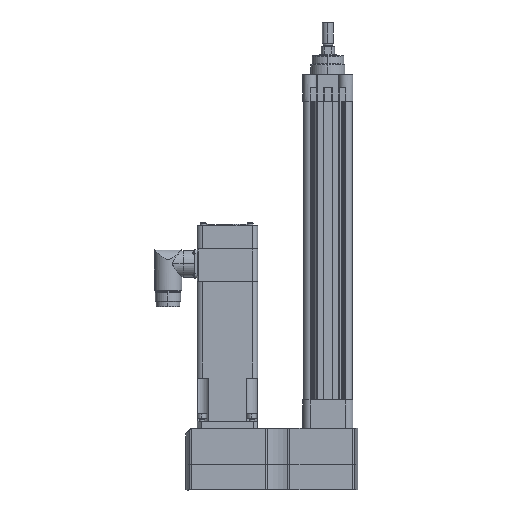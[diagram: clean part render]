
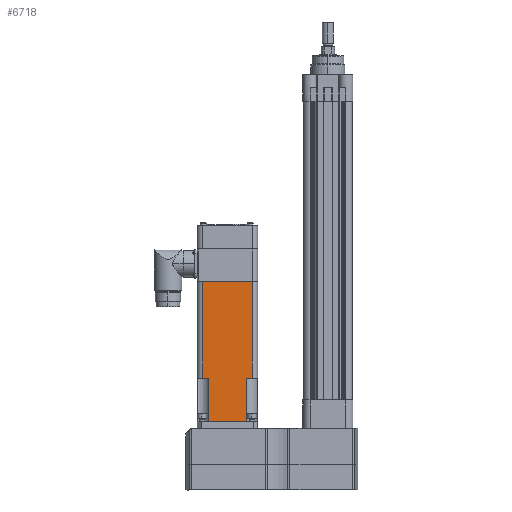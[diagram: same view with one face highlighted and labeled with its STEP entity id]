
A CAD part, left-side view. The second image highlights one B-rep face of the part: STEP entity #6718.
In plain terms, the highlighted planar face has unit normal (-1, 0, 0) as drawn and (0, 0, -1) by its records, which use the part's own axes.
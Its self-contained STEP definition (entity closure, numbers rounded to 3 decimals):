
#3277 = ORIENTED_EDGE ( 'NONE', *, *, #6850, .T. ) ;
#3278 = ORIENTED_EDGE ( 'NONE', *, *, #6851, .F. ) ;
#3279 = ORIENTED_EDGE ( 'NONE', *, *, #6849, .T. ) ;
#3650 = VERTEX_POINT ( 'NONE', #15145 ) ;
#3651 = VERTEX_POINT ( 'NONE', #15146 ) ;
#3664 = VERTEX_POINT ( 'NONE', #11144 ) ;
#3665 = VERTEX_POINT ( 'NONE', #11145 ) ;
#3666 = VERTEX_POINT ( 'NONE', #11146 ) ;
#3667 = VERTEX_POINT ( 'NONE', #11147 ) ;
#3668 = VERTEX_POINT ( 'NONE', #11148 ) ;
#3669 = VERTEX_POINT ( 'NONE', #11149 ) ;
#6718 = ADVANCED_FACE ( 'NONE', ( #34443 ), #35438, .F. ) ;
#6832 = EDGE_CURVE ( 'NONE', #3651, #3650, #34579, .T. ) ;
#6849 = EDGE_CURVE ( 'NONE', #3665, #3666, #34594, .T. ) ;
#6850 = EDGE_CURVE ( 'NONE', #3664, #3665, #34595, .T. ) ;
#6851 = EDGE_CURVE ( 'NONE', #3667, #3666, #34596, .T. ) ;
#6852 = EDGE_CURVE ( 'NONE', #3667, #3668, #34597, .T. ) ;
#6853 = EDGE_CURVE ( 'NONE', #3668, #3669, #34598, .T. ) ;
#6854 = EDGE_CURVE ( 'NONE', #3651, #3669, #34599, .T. ) ;
#6855 = EDGE_CURVE ( 'NONE', #3664, #3650, #34600, .T. ) ;
#7342 = ORIENTED_EDGE ( 'NONE', *, *, #6852, .T. ) ;
#7343 = ORIENTED_EDGE ( 'NONE', *, *, #6853, .T. ) ;
#7344 = ORIENTED_EDGE ( 'NONE', *, *, #6854, .F. ) ;
#7345 = ORIENTED_EDGE ( 'NONE', *, *, #6832, .T. ) ;
#7346 = ORIENTED_EDGE ( 'NONE', *, *, #6855, .F. ) ;
#11144 = CARTESIAN_POINT ( 'NONE',  ( -45.898, -17.084, -27.559 ) ) ;
#11145 = CARTESIAN_POINT ( 'NONE',  ( -45.898, -22.479, -27.559 ) ) ;
#11146 = CARTESIAN_POINT ( 'NONE',  ( -133.604, -22.479, -27.559 ) ) ;
#11147 = CARTESIAN_POINT ( 'NONE',  ( -133.604, 22.479, -27.559 ) ) ;
#11148 = CARTESIAN_POINT ( 'NONE',  ( -45.898, 22.479, -27.559 ) ) ;
#11149 = CARTESIAN_POINT ( 'NONE',  ( -45.898, 17.084, -27.559 ) ) ;
#15145 = CARTESIAN_POINT ( 'NONE',  ( -6.401, -17.084, -27.559 ) ) ;
#15146 = CARTESIAN_POINT ( 'NONE',  ( -6.401, 17.084, -27.559 ) ) ;
#26510 = EDGE_LOOP ( 'NONE', ( #3277, #3279, #3278, #7342, #7343, #7344, #7345, #7346 ) ) ;
#32808 = AXIS2_PLACEMENT_3D ( 'NONE', #35439, #35440, #35441 ) ;
#32959 = VECTOR ( 'NONE', #35785, 1000. ) ;
#34443 = FACE_OUTER_BOUND ( 'NONE', #26510, .T. ) ;
#34579 = LINE ( 'NONE', #35784, #32959 ) ;
#34594 = LINE ( 'NONE', #35820, #36003 ) ;
#34595 = LINE ( 'NONE', #35822, #36004 ) ;
#34596 = LINE ( 'NONE', #35824, #36005 ) ;
#34597 = LINE ( 'NONE', #35826, #36006 ) ;
#34598 = LINE ( 'NONE', #35828, #36007 ) ;
#34599 = LINE ( 'NONE', #35830, #36009 ) ;
#34600 = LINE ( 'NONE', #35832, #36010 ) ;
#35438 = PLANE ( 'NONE',  #32808 ) ;
#35439 = CARTESIAN_POINT ( 'NONE',  ( -133.604, -27.559, -27.559 ) ) ;
#35440 = DIRECTION ( 'NONE',  ( 0., 0., 1. ) ) ;
#35441 = DIRECTION ( 'NONE',  ( 1., 0., 0. ) ) ;
#35784 = CARTESIAN_POINT ( 'NONE',  ( -6.401, -27.559, -27.559 ) ) ;
#35785 = DIRECTION ( 'NONE',  ( 0., -1., 0. ) ) ;
#35820 = CARTESIAN_POINT ( 'NONE',  ( -133.604, -22.479, -27.559 ) ) ;
#35821 = DIRECTION ( 'NONE',  ( -1., 0., 0. ) ) ;
#35822 = CARTESIAN_POINT ( 'NONE',  ( -45.898, -27.559, -27.559 ) ) ;
#35823 = DIRECTION ( 'NONE',  ( 0., -1., 0. ) ) ;
#35824 = CARTESIAN_POINT ( 'NONE',  ( -133.604, -27.559, -27.559 ) ) ;
#35825 = DIRECTION ( 'NONE',  ( 0., -1., 0. ) ) ;
#35826 = CARTESIAN_POINT ( 'NONE',  ( -133.604, 22.479, -27.559 ) ) ;
#35827 = DIRECTION ( 'NONE',  ( 1., 0., 0. ) ) ;
#35828 = CARTESIAN_POINT ( 'NONE',  ( -45.898, -27.559, -27.559 ) ) ;
#35829 = DIRECTION ( 'NONE',  ( 0., -1., 0. ) ) ;
#35830 = CARTESIAN_POINT ( 'NONE',  ( -45.898, 17.084, -27.559 ) ) ;
#35831 = DIRECTION ( 'NONE',  ( -1., 0., 0. ) ) ;
#35832 = CARTESIAN_POINT ( 'NONE',  ( -45.898, -17.084, -27.559 ) ) ;
#35833 = DIRECTION ( 'NONE',  ( 1., 0., 0. ) ) ;
#36003 = VECTOR ( 'NONE', #35821, 1000. ) ;
#36004 = VECTOR ( 'NONE', #35823, 1000. ) ;
#36005 = VECTOR ( 'NONE', #35825, 1000. ) ;
#36006 = VECTOR ( 'NONE', #35827, 1000. ) ;
#36007 = VECTOR ( 'NONE', #35829, 1000. ) ;
#36009 = VECTOR ( 'NONE', #35831, 1000. ) ;
#36010 = VECTOR ( 'NONE', #35833, 1000. ) ;
